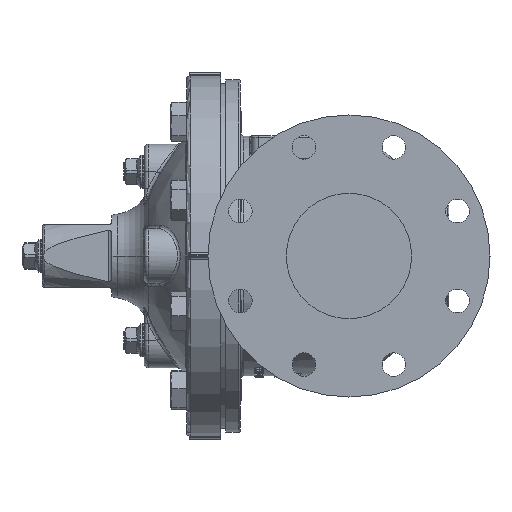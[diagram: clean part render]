
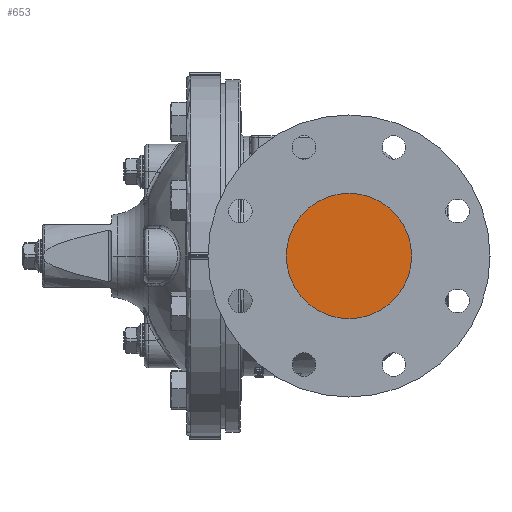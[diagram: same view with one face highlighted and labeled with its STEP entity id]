
A CAD part, left-side view. The second image highlights one B-rep face of the part: STEP entity #653.
In plain terms, the highlighted planar face has unit normal (-1, 0, 0).
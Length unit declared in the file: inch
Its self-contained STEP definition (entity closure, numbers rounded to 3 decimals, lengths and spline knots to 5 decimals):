
#186 = PLANE ( 'NONE',  #9430 ) ;
#549 = CARTESIAN_POINT ( 'NONE',  ( -6.5, -2.44, 0. ) ) ;
#653 = ADVANCED_FACE ( 'NONE', ( #11800 ), #186, .T. ) ;
#2205 = ORIENTED_EDGE ( 'NONE', *, *, #32112, .F. ) ;
#3761 = CARTESIAN_POINT ( 'NONE',  ( -6.5, 0., 2. ) ) ;
#3850 = DIRECTION ( 'NONE',  ( -1., 0., 0. ) ) ;
#4395 = VERTEX_POINT ( 'NONE', #42728 ) ;
#6030 = EDGE_CURVE ( 'NONE', #34933, #4395, #35186, .T. ) ;
#9430 = AXIS2_PLACEMENT_3D ( 'NONE', #549, #3850, #14057 ) ;
#11800 = FACE_OUTER_BOUND ( 'NONE', #41745, .T. ) ;
#12228 = CIRCLE ( 'NONE', #27639, 2. ) ;
#14057 = DIRECTION ( 'NONE',  ( 0., 0., 1. ) ) ;
#19517 = CARTESIAN_POINT ( 'NONE',  ( -6.5, 0., 0. ) ) ;
#23467 = DIRECTION ( 'NONE',  ( 0., 0., 1. ) ) ;
#27639 = AXIS2_PLACEMENT_3D ( 'NONE', #19517, #46966, #23467 ) ;
#32112 = EDGE_CURVE ( 'NONE', #4395, #34933, #12228, .T. ) ;
#34933 = VERTEX_POINT ( 'NONE', #3761 ) ;
#35186 = CIRCLE ( 'NONE', #41734, 2. ) ;
#38137 = ORIENTED_EDGE ( 'NONE', *, *, #6030, .F. ) ;
#39470 = DIRECTION ( 'NONE',  ( 0., 0., 1. ) ) ;
#39534 = DIRECTION ( 'NONE',  ( 1., 0., 0. ) ) ;
#39577 = CARTESIAN_POINT ( 'NONE',  ( -6.5, 0., 0. ) ) ;
#41734 = AXIS2_PLACEMENT_3D ( 'NONE', #39577, #39534, #39470 ) ;
#41745 = EDGE_LOOP ( 'NONE', ( #38137, #2205 ) ) ;
#42728 = CARTESIAN_POINT ( 'NONE',  ( -6.5, 0., -2. ) ) ;
#46966 = DIRECTION ( 'NONE',  ( 1., 0., 0. ) ) ;
